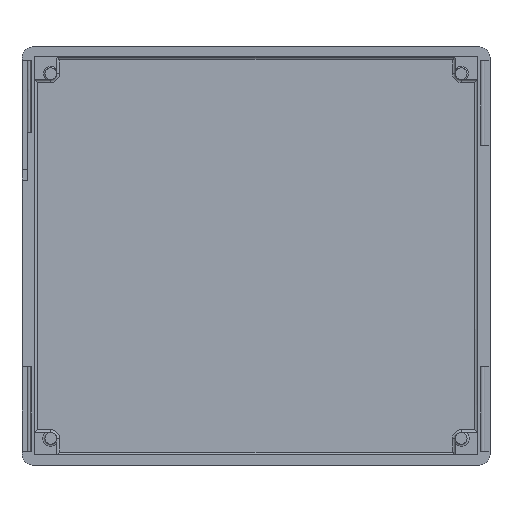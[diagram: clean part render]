
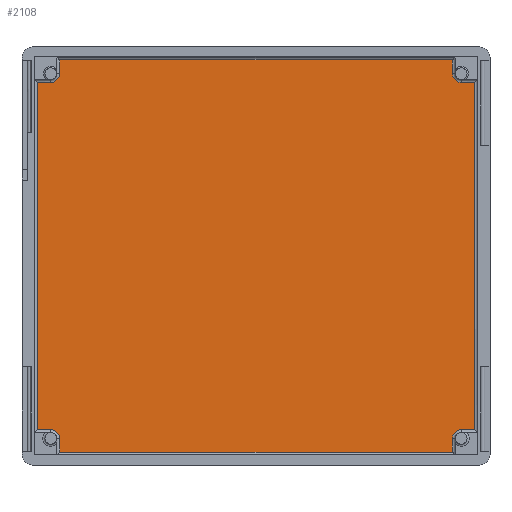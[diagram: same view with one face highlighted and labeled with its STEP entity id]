
A CAD part, top view. The second image highlights one B-rep face of the part: STEP entity #2108.
In plain terms, the highlighted planar face has unit normal (0, 0, 1).
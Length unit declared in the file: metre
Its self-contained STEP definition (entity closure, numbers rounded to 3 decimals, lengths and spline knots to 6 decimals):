
#96=PLANE('',#2278);
#275=LINE('',#3418,#476);
#276=LINE('',#3420,#477);
#277=LINE('',#3422,#478);
#278=LINE('',#3424,#479);
#279=LINE('',#3430,#480);
#280=LINE('',#3432,#481);
#281=LINE('',#3434,#482);
#282=LINE('',#3436,#483);
#283=LINE('',#3440,#484);
#284=LINE('',#3442,#485);
#285=LINE('',#3444,#486);
#286=LINE('',#3452,#487);
#287=LINE('',#3454,#488);
#288=LINE('',#3456,#489);
#476=VECTOR('',#2750,1.);
#477=VECTOR('',#2751,1.);
#478=VECTOR('',#2752,1.);
#479=VECTOR('',#2753,1.);
#480=VECTOR('',#2758,1.);
#481=VECTOR('',#2759,1.);
#482=VECTOR('',#2760,1.);
#483=VECTOR('',#2761,1.);
#484=VECTOR('',#2764,1.);
#485=VECTOR('',#2765,1.);
#486=VECTOR('',#2766,1.);
#487=VECTOR('',#2773,1.);
#488=VECTOR('',#2774,1.);
#489=VECTOR('',#2775,1.);
#896=ORIENTED_EDGE('',*,*,#1364,.T.);
#897=ORIENTED_EDGE('',*,*,#1365,.T.);
#898=ORIENTED_EDGE('',*,*,#1366,.T.);
#899=ORIENTED_EDGE('',*,*,#1367,.T.);
#900=ORIENTED_EDGE('',*,*,#1368,.F.);
#901=ORIENTED_EDGE('',*,*,#1369,.T.);
#902=ORIENTED_EDGE('',*,*,#1370,.T.);
#903=ORIENTED_EDGE('',*,*,#1371,.T.);
#904=ORIENTED_EDGE('',*,*,#1372,.T.);
#905=ORIENTED_EDGE('',*,*,#1373,.T.);
#906=ORIENTED_EDGE('',*,*,#1374,.F.);
#907=ORIENTED_EDGE('',*,*,#1375,.T.);
#908=ORIENTED_EDGE('',*,*,#1376,.T.);
#909=ORIENTED_EDGE('',*,*,#1377,.T.);
#910=ORIENTED_EDGE('',*,*,#1378,.T.);
#911=ORIENTED_EDGE('',*,*,#1379,.T.);
#912=ORIENTED_EDGE('',*,*,#1380,.T.);
#913=ORIENTED_EDGE('',*,*,#1381,.T.);
#914=ORIENTED_EDGE('',*,*,#1382,.T.);
#915=ORIENTED_EDGE('',*,*,#1383,.T.);
#916=ORIENTED_EDGE('',*,*,#1384,.T.);
#917=ORIENTED_EDGE('',*,*,#1385,.T.);
#918=ORIENTED_EDGE('',*,*,#1386,.T.);
#1364=EDGE_CURVE('',#1619,#1620,#1734,.F.);
#1365=EDGE_CURVE('',#1620,#1621,#275,.F.);
#1366=EDGE_CURVE('',#1621,#1622,#276,.T.);
#1367=EDGE_CURVE('',#1622,#1623,#277,.F.);
#1368=EDGE_CURVE('',#1624,#1623,#278,.T.);
#1369=EDGE_CURVE('',#1624,#1625,#1735,.F.);
#1370=EDGE_CURVE('',#1625,#1626,#1736,.F.);
#1371=EDGE_CURVE('',#1626,#1627,#279,.T.);
#1372=EDGE_CURVE('',#1627,#1628,#280,.T.);
#1373=EDGE_CURVE('',#1628,#1629,#281,.F.);
#1374=EDGE_CURVE('',#1630,#1629,#282,.T.);
#1375=EDGE_CURVE('',#1630,#1631,#1737,.F.);
#1376=EDGE_CURVE('',#1631,#1632,#283,.F.);
#1377=EDGE_CURVE('',#1632,#1633,#284,.F.);
#1378=EDGE_CURVE('',#1633,#1634,#285,.T.);
#1379=EDGE_CURVE('',#1634,#1635,#1738,.F.);
#1380=EDGE_CURVE('',#1635,#1636,#1739,.F.);
#1381=EDGE_CURVE('',#1636,#1637,#1740,.F.);
#1382=EDGE_CURVE('',#1637,#1638,#286,.F.);
#1383=EDGE_CURVE('',#1638,#1639,#287,.T.);
#1384=EDGE_CURVE('',#1639,#1640,#288,.F.);
#1385=EDGE_CURVE('',#1640,#1641,#1741,.F.);
#1386=EDGE_CURVE('',#1641,#1619,#1742,.F.);
#1619=VERTEX_POINT('',#3416);
#1620=VERTEX_POINT('',#3417);
#1621=VERTEX_POINT('',#3419);
#1622=VERTEX_POINT('',#3421);
#1623=VERTEX_POINT('',#3423);
#1624=VERTEX_POINT('',#3425);
#1625=VERTEX_POINT('',#3427);
#1626=VERTEX_POINT('',#3429);
#1627=VERTEX_POINT('',#3431);
#1628=VERTEX_POINT('',#3433);
#1629=VERTEX_POINT('',#3435);
#1630=VERTEX_POINT('',#3437);
#1631=VERTEX_POINT('',#3439);
#1632=VERTEX_POINT('',#3441);
#1633=VERTEX_POINT('',#3443);
#1634=VERTEX_POINT('',#3445);
#1635=VERTEX_POINT('',#3447);
#1636=VERTEX_POINT('',#3449);
#1637=VERTEX_POINT('',#3451);
#1638=VERTEX_POINT('',#3453);
#1639=VERTEX_POINT('',#3455);
#1640=VERTEX_POINT('',#3457);
#1641=VERTEX_POINT('',#3459);
#1734=CIRCLE('',#2279,0.002429);
#1735=CIRCLE('',#2280,0.002429);
#1736=CIRCLE('',#2281,0.002429);
#1737=CIRCLE('',#2282,0.002429);
#1738=CIRCLE('',#2283,0.002429);
#1739=CIRCLE('',#2284,0.002429);
#1740=CIRCLE('',#2285,0.002429);
#1741=CIRCLE('',#2286,0.002429);
#1742=CIRCLE('',#2287,0.002429);
#1838=EDGE_LOOP('',(#896,#897,#898,#899,#900,#901,#902,#903,#904,#905,#906,
#907,#908,#909,#910,#911,#912,#913,#914,#915,#916,#917,#918));
#1956=FACE_BOUND('',#1838,.T.);
#2108=ADVANCED_FACE('',(#1956),#96,.T.);
#2278=AXIS2_PLACEMENT_3D('',#3414,#2746,#2747);
#2279=AXIS2_PLACEMENT_3D('',#3415,#2748,#2749);
#2280=AXIS2_PLACEMENT_3D('',#3426,#2754,#2755);
#2281=AXIS2_PLACEMENT_3D('',#3428,#2756,#2757);
#2282=AXIS2_PLACEMENT_3D('',#3438,#2762,#2763);
#2283=AXIS2_PLACEMENT_3D('',#3446,#2767,#2768);
#2284=AXIS2_PLACEMENT_3D('',#3448,#2769,#2770);
#2285=AXIS2_PLACEMENT_3D('',#3450,#2771,#2772);
#2286=AXIS2_PLACEMENT_3D('',#3458,#2776,#2777);
#2287=AXIS2_PLACEMENT_3D('',#3460,#2778,#2779);
#2746=DIRECTION('',(0.,0.,1.));
#2747=DIRECTION('',(1.,0.,0.));
#2748=DIRECTION('',(0.,0.,1.));
#2749=DIRECTION('',(1.,0.,0.));
#2750=DIRECTION('',(0.,1.,0.));
#2751=DIRECTION('',(1.,0.,0.));
#2752=DIRECTION('',(0.,-1.,0.));
#2753=DIRECTION('',(-1.,0.,0.));
#2754=DIRECTION('',(0.,0.,1.));
#2755=DIRECTION('',(1.,0.,0.));
#2756=DIRECTION('',(0.,0.,1.));
#2757=DIRECTION('',(1.,0.,0.));
#2758=DIRECTION('',(1.,0.,0.));
#2759=DIRECTION('',(0.,1.,0.));
#2760=DIRECTION('',(1.,0.,0.));
#2761=DIRECTION('',(0.,-1.,0.));
#2762=DIRECTION('',(0.,0.,1.));
#2763=DIRECTION('',(1.,0.,0.));
#2764=DIRECTION('',(0.,-1.,0.));
#2765=DIRECTION('',(1.,0.,0.));
#2766=DIRECTION('',(0.,-1.,0.));
#2767=DIRECTION('',(0.,0.,1.));
#2768=DIRECTION('',(1.,0.,0.));
#2769=DIRECTION('',(0.,0.,1.));
#2770=DIRECTION('',(1.,0.,0.));
#2771=DIRECTION('',(0.,0.,1.));
#2772=DIRECTION('',(1.,0.,0.));
#2773=DIRECTION('',(1.,0.,0.));
#2774=DIRECTION('',(0.,-1.,0.));
#2775=DIRECTION('',(-1.,0.,0.));
#2776=DIRECTION('',(0.,0.,1.));
#2777=DIRECTION('',(1.,0.,0.));
#2778=DIRECTION('',(0.,0.,1.));
#2779=DIRECTION('',(1.,0.,0.));
#3414=CARTESIAN_POINT('',(0.,0.0003,-0.00802));
#3415=CARTESIAN_POINT('',(0.00381,0.00381,-0.00802));
#3416=CARTESIAN_POINT('',(0.006139,0.004499,-0.00802));
#3417=CARTESIAN_POINT('',(0.006239,0.00381,-0.00802));
#3418=CARTESIAN_POINT('',(0.006239,0.0003,-0.00802));
#3419=CARTESIAN_POINT('',(0.006239,-0.000019,-0.00802));
#3420=CARTESIAN_POINT('',(0.,-0.000019,-0.00802));
#3421=CARTESIAN_POINT('',(0.115681,-0.000019,-0.00802));
#3422=CARTESIAN_POINT('',(0.115681,0.0003,-0.00802));
#3423=CARTESIAN_POINT('',(0.115681,0.003699,-0.00802));
#3424=CARTESIAN_POINT('',(0.,0.003699,-0.00802));
#3425=CARTESIAN_POINT('',(0.115684,0.003699,-0.00802));
#3426=CARTESIAN_POINT('',(0.11811,0.00381,-0.00802));
#3427=CARTESIAN_POINT('',(0.117421,0.006139,-0.00802));
#3428=CARTESIAN_POINT('',(0.11811,0.00381,-0.00802));
#3429=CARTESIAN_POINT('',(0.11811,0.006239,-0.00802));
#3430=CARTESIAN_POINT('',(0.,0.006239,-0.00802));
#3431=CARTESIAN_POINT('',(0.121939,0.006239,-0.00802));
#3432=CARTESIAN_POINT('',(0.121939,0.0003,-0.00802));
#3433=CARTESIAN_POINT('',(0.121939,0.102981,-0.00802));
#3434=CARTESIAN_POINT('',(0.,0.102981,-0.00802));
#3435=CARTESIAN_POINT('',(0.118221,0.102981,-0.00802));
#3436=CARTESIAN_POINT('',(0.118221,0.0003,-0.00802));
#3437=CARTESIAN_POINT('',(0.118221,0.102984,-0.00802));
#3438=CARTESIAN_POINT('',(0.11811,0.10541,-0.00802));
#3439=CARTESIAN_POINT('',(0.115683,0.105521,-0.00802));
#3440=CARTESIAN_POINT('',(0.115681,0.0003,-0.00802));
#3441=CARTESIAN_POINT('',(0.115681,0.109239,-0.00802));
#3442=CARTESIAN_POINT('',(0.,0.109239,-0.00802));
#3443=CARTESIAN_POINT('',(0.006239,0.109239,-0.00802));
#3444=CARTESIAN_POINT('',(0.006239,0.0003,-0.00802));
#3445=CARTESIAN_POINT('',(0.006239,0.10541,-0.00802));
#3446=CARTESIAN_POINT('',(0.00381,0.10541,-0.00802));
#3447=CARTESIAN_POINT('',(0.006139,0.104721,-0.00802));
#3448=CARTESIAN_POINT('',(0.00381,0.10541,-0.00802));
#3449=CARTESIAN_POINT('',(0.004499,0.103081,-0.00802));
#3450=CARTESIAN_POINT('',(0.00381,0.10541,-0.00802));
#3451=CARTESIAN_POINT('',(0.00381,0.102981,-0.00802));
#3452=CARTESIAN_POINT('',(0.,0.102981,-0.00802));
#3453=CARTESIAN_POINT('',(-0.000019,0.102981,-0.00802));
#3454=CARTESIAN_POINT('',(-0.000019,0.0003,-0.00802));
#3455=CARTESIAN_POINT('',(-0.000019,0.006239,-0.00802));
#3456=CARTESIAN_POINT('',(0.,0.006239,-0.00802));
#3457=CARTESIAN_POINT('',(0.00381,0.006239,-0.00802));
#3458=CARTESIAN_POINT('',(0.00381,0.00381,-0.00802));
#3459=CARTESIAN_POINT('',(0.004499,0.006139,-0.00802));
#3460=CARTESIAN_POINT('',(0.00381,0.00381,-0.00802));
